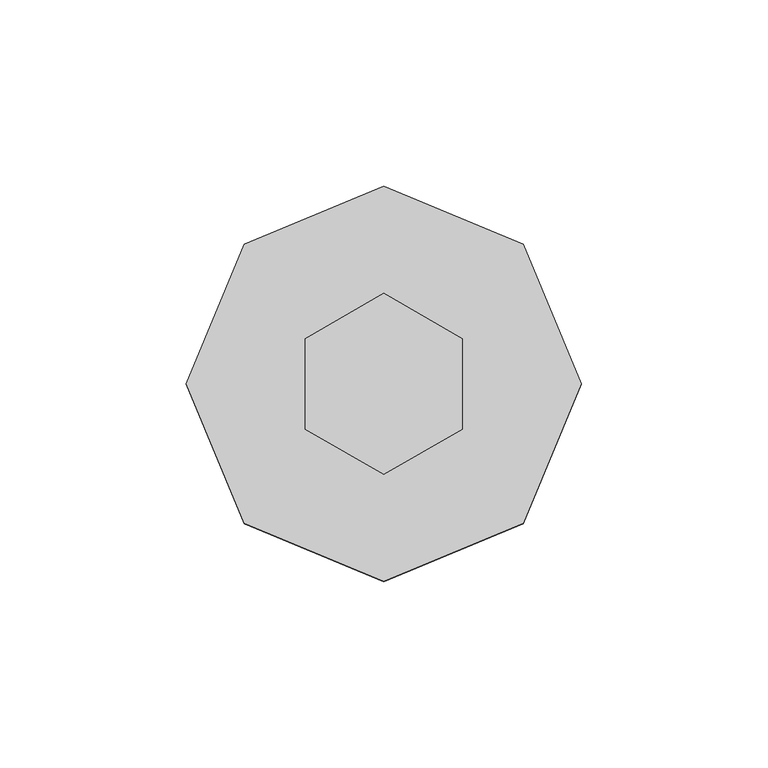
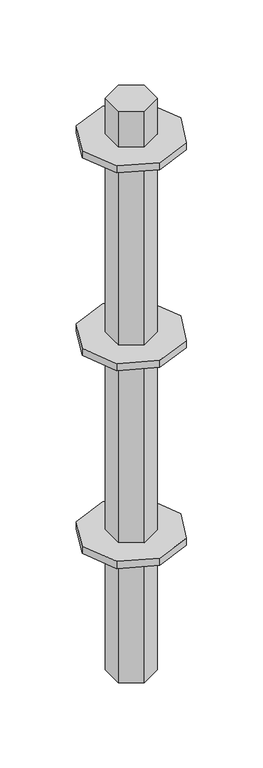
"""IFC4 building model written with IfcOpenShell, lengths in millimetres: proxy geometry, AK_アルバトロスＡＫ支柱L=675_軽 : AK_アルバトロスＡＫ支柱L=675."""

from ifc_helpers import new_model, si_unit, frame, origin, origin_with_axes, place, context, project, spatial, polyline, outline, extrude, source, transform, mapped, element, save


def generic_models_76ee82b8(model_context):
    return source(origin(), model_context, "Body", "SweptSolid", [
        extrude(outline(polyline([(-37.4766594, -37.4766594), (-53.0, 0.0), (-37.4766594, 37.4766594), (0.0, 53.0), (37.4766594, 37.4766594), (53.0, 0.0), (37.4766594, -37.4766594), (0.0, -53.0), (-37.4766594, -37.4766594)])), frame((0.0, 0.0, 601.0), z_axis=(0.0, 0.0, 1.0), x_axis=(1.0, 0.0, 0.0)), (0.0, 0.0, 1.0), 8.0),
        extrude(outline(polyline([(-37.4766594, -37.4766594), (-53.0, 0.0), (-37.4766594, 37.4766594), (0.0, 53.0), (37.4766594, 37.4766594), (53.0, 0.0), (37.4766594, -37.4766594), (0.0, -53.0), (-37.4766594, -37.4766594)])), frame((0.0, 0.0, 151.0), z_axis=(0.0, 0.0, 1.0), x_axis=(1.0, 0.0, 0.0)), (0.0, 0.0, 1.0), 8.0),
        extrude(outline(polyline([(-37.4766594, -37.4766594), (-53.0, 0.0), (-37.4766594, 37.4766594), (0.0, 53.0), (37.4766594, 37.4766594), (53.0, 0.0), (37.4766594, -37.4766594), (0.0, -53.0), (-37.4766594, -37.4766594)])), frame((0.0, 0.0, 376.0), z_axis=(0.0, 0.0, 1.0), x_axis=(1.0, 0.0, 0.0)), (0.0, 0.0, 1.0), 8.0),
        extrude(outline(polyline([(-21.0444173, -12.15), (-21.0444173, 12.15), (0.0, 24.3), (21.0444173, 12.15), (21.0444173, -12.15), (0.0, -24.3), (-21.0444173, -12.15)])), origin_with_axes(), (0.0, 0.0, 1.0), 650.0),
    ])


if __name__ == "__main__":
    model = new_model("IFC4")
    model_context = context("Model", 3, world=origin())
    ifc_project = project(units=[si_unit("LENGTHUNIT", "METRE", prefix="MILLI")], contexts=[model_context])
    site = spatial("IfcSite", under=ifc_project)
    building = spatial("IfcBuilding", under=site)
    placement = place(None, origin())
    generic_models_shape = generic_models_76ee82b8(model_context)
    element("IfcBuildingElementProxy", 1, Name="AK_アルバトロスＡＫ支柱L=675_軽 : AK_アルバトロスＡＫ支柱L=675", ObjectType="AK_アルバトロスＡＫ支柱L=675_軽 : AK_アルバトロスＡＫ支柱L=675", at=placement, inside=building, context=model_context, shape_type="MappedRepresentation", body=[
        mapped(generic_models_shape, transform((0.0, 0.0, 0.0), x_axis=(1.0, 0.0, 0.0), y_axis=(0.0, 1.0, 0.0), z_axis=(0.0, 0.0, 1.0))),
    ])
    save(model, "model.ifc")
